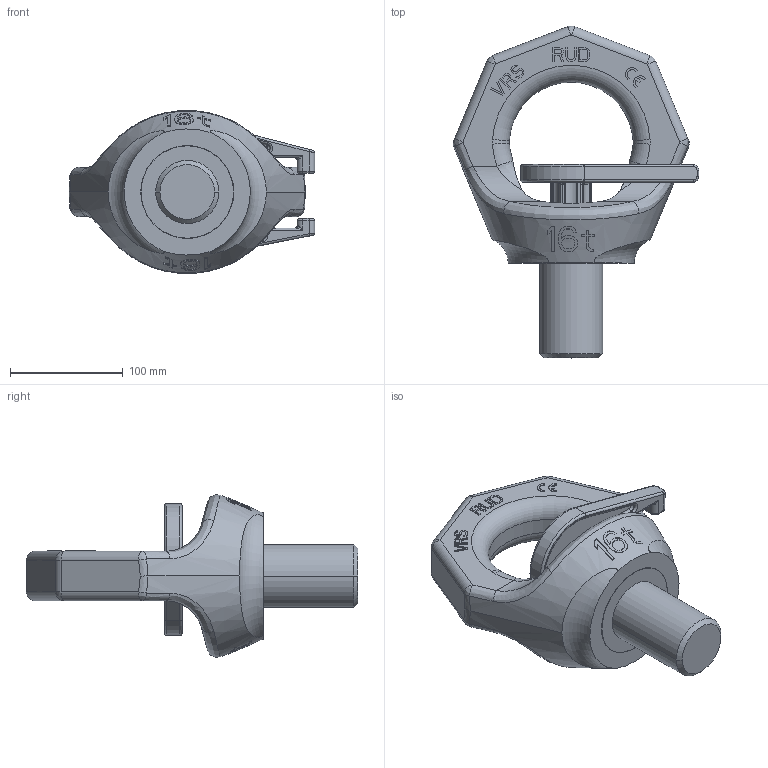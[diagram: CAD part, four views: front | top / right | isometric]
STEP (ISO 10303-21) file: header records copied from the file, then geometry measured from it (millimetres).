
FILE_DESCRIPTION((''),'2;1');
FILE_NAME('001-M35376-P-2_ASM','2020-04-30T',('Andreas.Wendler'),(''),'PRO/ENGINEER BY PARAMETRIC TECHNOLOGY CORPORATION, 2011490','PRO/ENGINEER BY PARAMETRIC TECHNOLOGY CORPORATION, 2011490','');
FILE_SCHEMA(('CONFIG_CONTROL_DESIGN'));
Length unit declared in the file: millimetre
Products named in the file (4): 001-M35376-P-1; 001-M35749-P-1; 001-M35380-P-1; 001-M35376-P-2_ASM
Assembly tree (3 placements, depth 2):
  001-M35376-P-2_ASM
    001-M35376-P-1
    001-M35749-P-1
    001-M35380-P-1
Bounding box: 217.76 x 294.54 x 144.35 mm (x, y, z)
Volume: 1728064.7 mm3; surface area: 196681.9 mm2
Topology: 3 solids, 3 shells, 973 faces, 2556 edges, 1618 vertices
Faces by surface type: plane 636, cylinder 163, torus 90, bspline 63, sphere 19, cone 2
Entity records: 33687 total; most frequent: CARTESIAN_POINT 10419, ORIENTED_EDGE 5112, DIRECTION 4408, EDGE_CURVE 2556, VECTOR 1626, LINE 1626, VERTEX_POINT 1618, AXIS2_PLACEMENT_3D 1391
